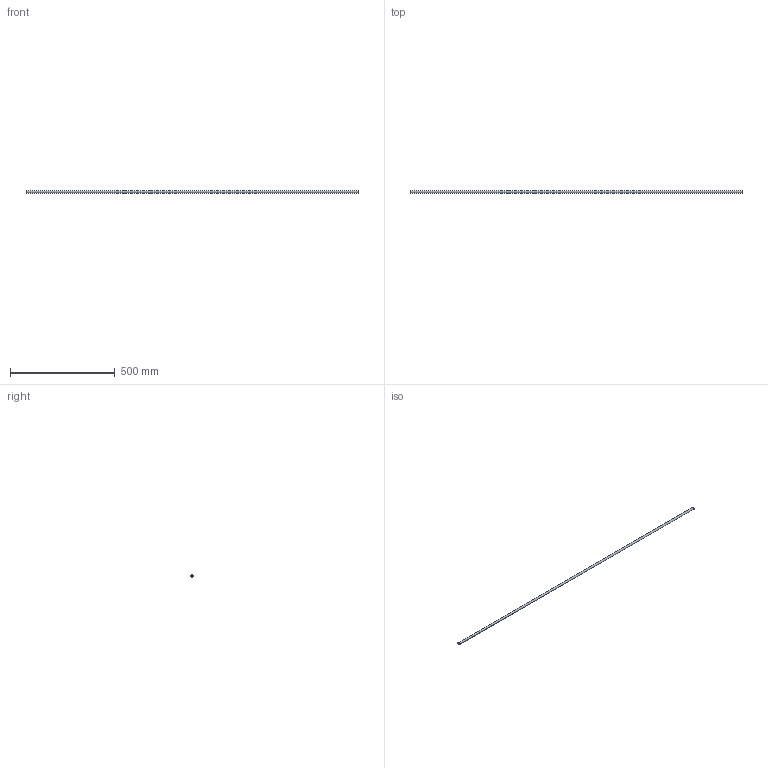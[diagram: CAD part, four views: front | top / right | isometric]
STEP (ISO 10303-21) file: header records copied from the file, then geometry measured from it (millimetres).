
FILE_DESCRIPTION(/* description */ (''),/* implementation_level */ '2;1');
FILE_NAME(/* name */ 'Spar.step',/* time_stamp */ '2023-09-02T21:57:27+03:00',/* author */ (''),/* organization */ (''),/* preprocessor_version */ 'ST-DEVELOPER v20',/* originating_system */ 'Autodesk Translation Framework v12.9.0.99',/* authorisation */ '');
FILE_SCHEMA (('AUTOMOTIVE_DESIGN { 1 0 10303 214 3 1 1 }'));
Length unit declared in the file: millimetre
Products named in the file (1): Front spar
Bounding box: 1581 x 10 x 10 mm (x, y, z)
Volume: 44701.7 mm3; surface area: 89460 mm2
Topology: 1 solids, 1 shells, 4 faces, 6 edges, 4 vertices
Faces by surface type: cylinder 2, plane 2
Full cylindrical faces by diameter (mm): 8 x1, 10 x1
Entity records: 138 total; most frequent: DIRECTION 20, CARTESIAN_POINT 15, ORIENTED_EDGE 12, AXIS2_PLACEMENT_3D 9, EDGE_LOOP 6, EDGE_CURVE 6, FACE_OUTER_BOUND 4, CIRCLE 4
